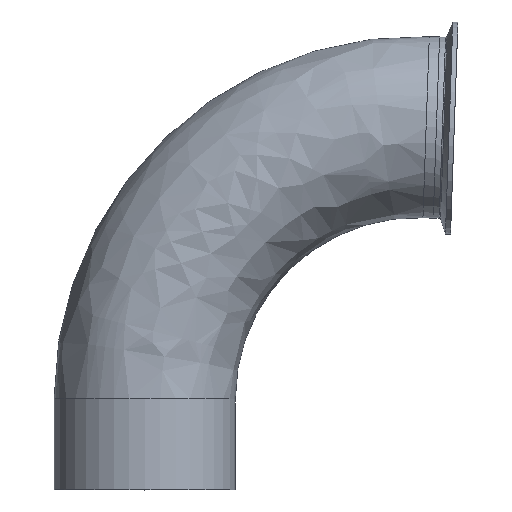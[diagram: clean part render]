
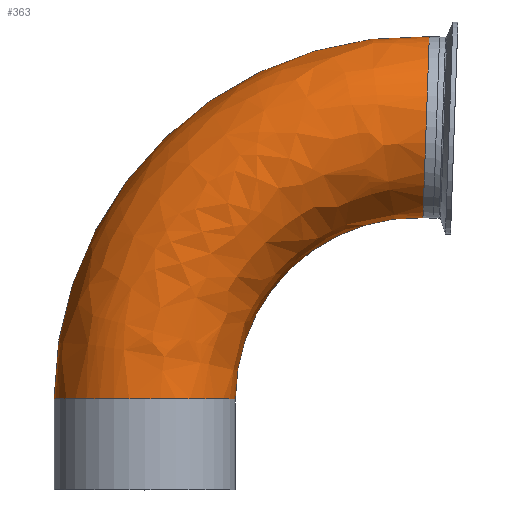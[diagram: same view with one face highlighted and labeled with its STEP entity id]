
A CAD part, top view. The second image highlights one B-rep face of the part: STEP entity #363.
In plain terms, the highlighted free-form (B-spline) face has degree [3, 3] with [4, 4] control points.
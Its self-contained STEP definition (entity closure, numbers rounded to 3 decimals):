
#4 = ORIENTED_EDGE ( 'NONE', *, *, #240, .T. ) ;
#10 = CARTESIAN_POINT ( 'NONE',  ( 50.8, 50.933, 0. ) ) ;
#11 = CARTESIAN_POINT ( 'NONE',  ( 0., 50.933, 0. ) ) ;
#21 = DIRECTION ( 'NONE',  ( 0., 1., 0. ) ) ;
#32 = DIRECTION ( 'NONE',  ( -1., 0., 0. ) ) ;
#68 = EDGE_CURVE ( 'NONE', #1585, #313, #293, .T. ) ;
#157 = CARTESIAN_POINT ( 'NONE',  ( 94.807, 154.606, 0. ) ) ;
#202 = DIRECTION ( 'NONE',  ( -0.999, 0.035, 0. ) ) ;
#225 = VERTEX_POINT ( 'NONE', #1814 ) ;
#232 = CARTESIAN_POINT ( 'NONE',  ( 157.719, 203.24, 0. ) ) ;
#240 = EDGE_CURVE ( 'NONE', #225, #1585, #1658, .T. ) ;
#293 = CIRCLE ( 'NONE', #1679, 50.8 ) ;
#295 = CARTESIAN_POINT ( 'NONE',  ( 50.8, 112.11, 0. ) ) ;
#308 = EDGE_LOOP ( 'NONE', ( #1631, #4, #1763, #452 ) ) ;
#313 = VERTEX_POINT ( 'NONE', #834 ) ;
#332 = DIRECTION ( 'NONE',  ( 0.035, 0.999, 0. ) ) ;
#363 = ADVANCED_FACE ( 'NONE', ( #1508 ), #618, .T. ) ;
#376 = CARTESIAN_POINT ( 'NONE',  ( 155.946, 152.471, 0. ) ) ;
#452 = ORIENTED_EDGE ( 'NONE', *, *, #633, .F. ) ;
#466 = CARTESIAN_POINT ( 'NONE',  ( 94.807, 154.606, 101.6 ) ) ;
#476 = CARTESIAN_POINT ( 'NONE',  ( 50.8, 112.11, 101.6 ) ) ;
#539 = DIRECTION ( 'NONE',  ( 0., 0., -1. ) ) ;
#578 = CIRCLE ( 'NONE', #1184, 203.2 ) ;
#618 =( BOUNDED_SURFACE ( )  B_SPLINE_SURFACE ( 3, 3, ( 
 ( #1057, #869, #1068, #1073 ),
 ( #1155, #1161, #1175, #1189 ),
 ( #1217, #476, #466, #1855 ),
 ( #10, #295, #157, #376 ) ),
 .UNSPECIFIED., .F., .F., .F. ) 
 B_SPLINE_SURFACE_WITH_KNOTS ( ( 4, 4 ),
 ( 4, 4 ),
 ( 0., 1. ),
 ( 0., 1. ),
 .UNSPECIFIED. ) 
 GEOMETRIC_REPRESENTATION_ITEM ( )  RATIONAL_B_SPLINE_SURFACE ( (
 ( 1., 0.796, 0.796, 1.),
 ( 0.333, 0.265, 0.265, 0.333),
 ( 0.333, 0.265, 0.265, 0.333),
 ( 1., 0.796, 0.796, 1.) ) ) 
 REPRESENTATION_ITEM ( '' )  SURFACE ( )  );
#633 = EDGE_CURVE ( 'NONE', #704, #313, #578, .T. ) ;
#704 = VERTEX_POINT ( 'NONE', #782 ) ;
#710 = CARTESIAN_POINT ( 'NONE',  ( 155.946, 152.471, 0. ) ) ;
#724 = DIRECTION ( 'NONE',  ( -1., 0., 0. ) ) ;
#782 = CARTESIAN_POINT ( 'NONE',  ( -50.8, 50.933, 0. ) ) ;
#834 = CARTESIAN_POINT ( 'NONE',  ( 159.492, 254.009, 0. ) ) ;
#869 = CARTESIAN_POINT ( 'NONE',  ( -50.8, 173.286, 0. ) ) ;
#907 = AXIS2_PLACEMENT_3D ( 'NONE', #1252, #1224, #1148 ) ;
#1057 = CARTESIAN_POINT ( 'NONE',  ( -50.8, 50.933, 0. ) ) ;
#1068 = CARTESIAN_POINT ( 'NONE',  ( 37.213, 258.28, 0. ) ) ;
#1073 = CARTESIAN_POINT ( 'NONE',  ( 159.492, 254.009, 0. ) ) ;
#1100 = CIRCLE ( 'NONE', #1366, 50.8 ) ;
#1148 = DIRECTION ( 'NONE',  ( -1., 0., 0. ) ) ;
#1155 = CARTESIAN_POINT ( 'NONE',  ( -50.8, 50.933, 101.6 ) ) ;
#1161 = CARTESIAN_POINT ( 'NONE',  ( -50.8, 173.286, 101.6 ) ) ;
#1175 = CARTESIAN_POINT ( 'NONE',  ( 37.213, 258.28, 101.6 ) ) ;
#1184 = AXIS2_PLACEMENT_3D ( 'NONE', #1857, #539, #724 ) ;
#1189 = CARTESIAN_POINT ( 'NONE',  ( 159.492, 254.009, 101.6 ) ) ;
#1217 = CARTESIAN_POINT ( 'NONE',  ( 50.8, 50.933, 101.6 ) ) ;
#1224 = DIRECTION ( 'NONE',  ( 0., 0., -1. ) ) ;
#1252 = CARTESIAN_POINT ( 'NONE',  ( 152.4, 50.933, 0. ) ) ;
#1366 = AXIS2_PLACEMENT_3D ( 'NONE', #11, #21, #32 ) ;
#1508 = FACE_OUTER_BOUND ( 'NONE', #308, .T. ) ;
#1585 = VERTEX_POINT ( 'NONE', #710 ) ;
#1589 = EDGE_CURVE ( 'NONE', #704, #225, #1100, .T. ) ;
#1631 = ORIENTED_EDGE ( 'NONE', *, *, #1589, .T. ) ;
#1658 = CIRCLE ( 'NONE', #907, 101.6 ) ;
#1679 = AXIS2_PLACEMENT_3D ( 'NONE', #232, #202, #332 ) ;
#1763 = ORIENTED_EDGE ( 'NONE', *, *, #68, .T. ) ;
#1814 = CARTESIAN_POINT ( 'NONE',  ( 50.8, 50.933, 0. ) ) ;
#1855 = CARTESIAN_POINT ( 'NONE',  ( 155.946, 152.471, 101.6 ) ) ;
#1857 = CARTESIAN_POINT ( 'NONE',  ( 152.4, 50.933, 0. ) ) ;
